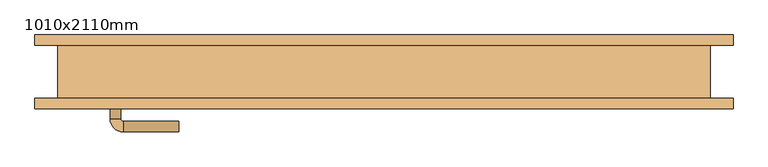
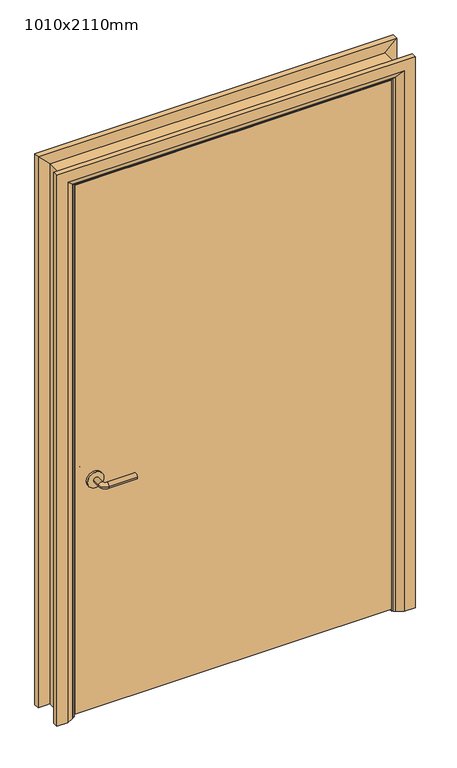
"""IFC4 building model written with IfcOpenShell, lengths in millimetres: door geometry, BIMHealth-Single_Door_1250mm_Wide-LOD2A-v1 : 1010x2110mm."""

from ifc_helpers import new_model, si_unit, point, frame, frame_2d, origin, place, context, project, spatial, polyline, circle_curve, ellipse_curve, trimmed, segment, composite_curve, outline, extrude, faceted_brep, source, transform, mapped, element, save
from ifc_brep_helpers import plane_surface, cylinder_surface, revolved_surface, advanced_brep


def door_1010x2110mm_f2e4c21a(model_context):
    return source(origin(), model_context, "Body", "SolidModel", [
        advanced_brep(
        [(-518.0, -4.0, 900.0), (-498.0, -4.0, 900.0), (-518.0, 26.0, 900.0), (-498.0, 26.0, 900.0), (-493.0, 31.0, 900.0), (-493.0, 51.0, 900.0), (-388.0, 51.0, 900.0), (-388.0, 31.0, 900.0)],
        [
            (0, 1, circle_curve(frame((-508.0, -4.0, 900.0), z_axis=(0.0, -1.0, 0.0), x_axis=(1.0, 0.0, 0.0)), 10.0)),
            (1, 0, circle_curve(frame((-508.0, -4.0, 900.0), z_axis=(0.0, -1.0, 0.0), x_axis=(1.0, 0.0, 0.0)), 10.0)),
            (0, 2),
            (2, 3, circle_curve(frame((-508.0, 26.0, 900.0), z_axis=(0.0, -1.0, 0.0), x_axis=(1.0, 0.0, 0.0)), 10.0)),
            (3, 1),
            (3, 2, circle_curve(frame((-508.0, 26.0, 900.0), z_axis=(0.0, -1.0, 0.0), x_axis=(1.0, 0.0, 0.0)), 10.0)),
            (4, 3, circle_curve(frame((-493.0, 26.0, 900.0), z_axis=(0.0, 0.0, 1.0), x_axis=(-1.0, 0.0, 0.0)), 5.0)),
            (2, 5, circle_curve(frame((-493.0, 26.0, 900.0), z_axis=(0.0, 0.0, -1.0), x_axis=(-1.0, 0.0, 0.0)), 25.0)),
            (5, 4, circle_curve(frame((-493.0, 41.0, 900.0), z_axis=(-1.0, 0.0, 0.0), x_axis=(0.0, -1.0, 0.0)), 10.0)),
            (4, 5, circle_curve(frame((-493.0, 41.0, 900.0), z_axis=(-1.0, 0.0, 0.0), x_axis=(0.0, -1.0, 0.0)), 10.0)),
            (6, 7, circle_curve(frame((-388.0, 41.0, 900.0), z_axis=(1.0, 0.0, 0.0), x_axis=(0.0, -1.0, 0.0)), 10.0)),
            (7, 6, circle_curve(frame((-388.0, 41.0, 900.0), z_axis=(1.0, 0.0, 0.0), x_axis=(0.0, -1.0, 0.0)), 10.0)),
            (5, 6),
            (7, 4),
        ],
        [
            plane_surface(frame((-508.0, -4.0, 900.0), z_axis=(0.0, -1.0, 0.0), x_axis=(0.0, 0.0, 1.0))),
            cylinder_surface(frame((-508.0, -4.0, 900.0), z_axis=(0.0, -1.0, 0.0), x_axis=(1.0, 0.0, 0.0)), 10.0),
            revolved_surface(trimmed(ellipse_curve(frame((-508.0, 26.0, 900.0), z_axis=(0.0, -1.0, 0.0), x_axis=(1.0, 0.0, 0.0)), 10.0, 10.0), [point((-518.0, 26.0, 900.0))], [point((-498.0, 26.0, 900.0))], True, "CARTESIAN"), (-493.0, 26.0, 900.0), (0.0, 0.0, -1.0)),
            revolved_surface(trimmed(ellipse_curve(frame((-508.0, 26.0, 900.0), z_axis=(0.0, -1.0, 0.0), x_axis=(1.0, 0.0, 0.0)), 10.0, 10.0), [point((-498.0, 26.0, 900.0))], [point((-518.0, 26.0, 900.0))], True, "CARTESIAN"), (-493.0, 26.0, 900.0), (0.0, 0.0, -1.0)),
            plane_surface(frame((-388.0, 41.0, 900.0), z_axis=(1.0, 0.0, 0.0), x_axis=(0.0, 0.0, 1.0))),
            cylinder_surface(frame((-493.0, 41.0, 900.0), z_axis=(-1.0, 0.0, 0.0), x_axis=(0.0, -1.0, 0.0)), 10.0),
        ],
        [
            (0, [[1, 2]]),
            (1, [[-1, 3, 4, 5]]),
            (1, [[-2, -5, 6, -3]]),
            (2, [[7, -4, 8, 9]]),
            (3, [[-8, -6, -7, 10]]),
            (4, [[11, 12]]),
            (5, [[-9, 13, -12, 14]]),
            (5, [[-10, -14, -11, -13]]),
        ],
    ),
        extrude(outline(composite_curve([segment(trimmed(circle_curve(frame_2d((900.0, -510.5)), 30.0), [point((900.0, -540.5))], [point((900.0, -480.5))], False, "CARTESIAN"), True, "CONTINUOUS"), segment(trimmed(circle_curve(frame_2d((900.0, -510.5)), 30.0), [point((900.0, -480.5))], [point((900.0, -540.5))], False, "CARTESIAN"), True, "CONTINUOUS")], self_intersect=False)), frame((0.0, -12.0, 0.0), z_axis=(0.0, 1.0, 0.0), x_axis=(0.0, 0.0, 1.0)), (0.0, 0.0, 1.0), 8.0),
        advanced_brep(
        [(-518.0, -58.0, 900.0), (-498.0, -58.0, 900.0), (-498.0, -88.0, 900.0), (-518.0, -88.0, 900.0), (-493.0, -93.0, 900.0), (-493.0, -113.0, 900.0), (-388.0, -113.0, 900.0), (-388.0, -93.0, 900.0)],
        [
            (0, 1, circle_curve(frame((-508.0, -58.0, 900.0), z_axis=(0.0, 1.0, 0.0), x_axis=(1.0, 0.0, 0.0)), 10.0)),
            (1, 0, circle_curve(frame((-508.0, -58.0, 900.0), z_axis=(0.0, 1.0, 0.0), x_axis=(1.0, 0.0, 0.0)), 10.0)),
            (1, 2),
            (2, 3, circle_curve(frame((-508.0, -88.0, 900.0), z_axis=(0.0, 1.0, 0.0), x_axis=(1.0, 0.0, 0.0)), 10.0)),
            (3, 0),
            (3, 2, circle_curve(frame((-508.0, -88.0, 900.0), z_axis=(0.0, 1.0, 0.0), x_axis=(1.0, 0.0, 0.0)), 10.0)),
            (4, 5, circle_curve(frame((-493.0, -103.0, 900.0), z_axis=(-1.0, 0.0, 0.0), x_axis=(0.0, 1.0, 0.0)), 10.0)),
            (5, 3, circle_curve(frame((-493.0, -88.0, 900.0), z_axis=(0.0, 0.0, -1.0), x_axis=(-1.0, 0.0, 0.0)), 25.0)),
            (2, 4, circle_curve(frame((-493.0, -88.0, 900.0), z_axis=(0.0, 0.0, 1.0), x_axis=(-1.0, 0.0, 0.0)), 5.0)),
            (5, 4, circle_curve(frame((-493.0, -103.0, 900.0), z_axis=(-1.0, 0.0, 0.0), x_axis=(0.0, 1.0, 0.0)), 10.0)),
            (6, 7, circle_curve(frame((-388.0, -103.0, 900.0), z_axis=(1.0, 0.0, 0.0), x_axis=(0.0, 1.0, 0.0)), 10.0)),
            (7, 6, circle_curve(frame((-388.0, -103.0, 900.0), z_axis=(1.0, 0.0, 0.0), x_axis=(0.0, 1.0, 0.0)), 10.0)),
            (4, 7),
            (6, 5),
        ],
        [
            plane_surface(frame((-508.0, -58.0, 900.0), z_axis=(0.0, 1.0, 0.0), x_axis=(0.0, 0.0, 1.0))),
            cylinder_surface(frame((-508.0, -58.0, 900.0), z_axis=(0.0, 1.0, 0.0), x_axis=(1.0, 0.0, 0.0)), 10.0),
            revolved_surface(trimmed(ellipse_curve(frame((-508.0, -88.0, 900.0), z_axis=(0.0, -1.0, 0.0), x_axis=(1.0, 0.0, 0.0)), 10.0, 10.0), [point((-518.0, -88.0, 900.0))], [point((-498.0, -88.0, 900.0))], True, "CARTESIAN"), (-493.0, -88.0, 900.0), (0.0, 0.0, -1.0)),
            revolved_surface(trimmed(ellipse_curve(frame((-508.0, -88.0, 900.0), z_axis=(0.0, -1.0, 0.0), x_axis=(1.0, 0.0, 0.0)), 10.0, 10.0), [point((-498.0, -88.0, 900.0))], [point((-518.0, -88.0, 900.0))], True, "CARTESIAN"), (-493.0, -88.0, 900.0), (0.0, 0.0, -1.0)),
            plane_surface(frame((-388.0, -103.0, 900.0), z_axis=(1.0, 0.0, 0.0), x_axis=(0.0, 0.0, 1.0))),
            cylinder_surface(frame((-493.0, -103.0, 900.0), z_axis=(-1.0, 0.0, 0.0), x_axis=(0.0, 1.0, 0.0)), 10.0),
        ],
        [
            (0, [[1, 2]]),
            (1, [[3, 4, 5, -2]]),
            (1, [[-5, 6, -3, -1]]),
            (2, [[7, 8, -4, 9]]),
            (3, [[10, -9, -6, -8]]),
            (4, [[11, 12]]),
            (5, [[13, -11, 14, -7]]),
            (5, [[-14, -12, -13, -10]]),
        ],
    ),
        extrude(outline(composite_curve([segment(trimmed(circle_curve(frame_2d((900.0, -510.5)), 30.0), [point((900.0, -540.5))], [point((900.0, -480.5))], False, "CARTESIAN"), True, "CONTINUOUS"), segment(trimmed(circle_curve(frame_2d((900.0, -510.5)), 30.0), [point((900.0, -480.5))], [point((900.0, -540.5))], False, "CARTESIAN"), True, "CONTINUOUS")], self_intersect=False)), frame((0.0, -58.0, 0.0), z_axis=(0.0, 1.0, 0.0), x_axis=(0.0, 0.0, 1.0)), (0.0, 0.0, 1.0), 8.0),
        extrude(outline(polyline([(583.0, -12.0), (583.0, -50.0), (-583.0, -50.0), (-583.0, -12.0), (583.0, -12.0)])), frame((0.0, 0.0, 8.0), z_axis=(0.0, 0.0, 1.0), x_axis=(1.0, 0.0, 0.0)), (0.0, 0.0, 1.0), 2060.0),
        advanced_brep(
        [(660.0, -70.0, 0.0), (620.0, -70.0, 0.0), (594.0, -56.0, 0.0), (590.0, -50.0, 0.0), (660.0, -50.0, 0.0), (660.0, -50.0, 2145.0), (660.0, -70.0, 2145.0), (590.0, -50.0, 2075.0), (-590.0, -50.0, 2075.0), (-590.0, -50.0, 0.0), (-660.0, -50.0, 0.0), (-660.0, -50.0, 2145.0), (594.0, -56.0, 2079.0), (620.0, -70.0, 2105.0), (-660.0, -70.0, 2145.0), (-660.0, -70.0, 0.0), (-620.0, -70.0, 0.0), (-620.0, -70.0, 2105.0), (-594.0, -56.0, 0.0), (-594.0, -56.0, 2079.0)],
        [
            (0, 1),
            (1, 2),
            (2, 3, circle_curve(frame((598.0, -49.0, 0.0), z_axis=(0.0, 0.0, -1.0), x_axis=(1.0, 0.0, 0.0)), 8.0622577)),
            (3, 4),
            (4, 0),
            (4, 5),
            (5, 6),
            (6, 0),
            (3, 7),
            (7, 8),
            (8, 9),
            (9, 10),
            (10, 11),
            (11, 5),
            (2, 12),
            (12, 7, ellipse_curve(frame((598.0, -49.0, 2083.0), z_axis=(0.7071067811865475, 0.0, -0.7071067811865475), x_axis=(-0.7071067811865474, 0.0, -0.7071067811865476)), 11.4017543, 8.0622577)),
            (1, 13),
            (13, 12),
            (6, 14),
            (14, 15),
            (15, 16),
            (16, 17),
            (17, 13),
            (10, 15),
            (14, 11),
            (9, 18, circle_curve(frame((-598.0, -49.0, 0.0), z_axis=(0.0, 0.0, -1.0), x_axis=(-1.0, 0.0, 0.0)), 8.0622577)),
            (18, 16),
            (19, 18),
            (8, 19, ellipse_curve(frame((-598.0, -49.0, 2083.0), z_axis=(-0.7071067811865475, 0.0, -0.7071067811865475), x_axis=(-0.7071067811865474, 0.0, 0.7071067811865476)), 11.4017543, 8.0622577)),
            (19, 17),
            (12, 19),
        ],
        [
            plane_surface(frame((590.0, -50.0, 0.0), z_axis=(0.0, 0.0, -1.0), x_axis=(0.0, 1.0, 0.0))),
            plane_surface(frame((660.0, -70.0, 0.0), z_axis=(1.0, 0.0, 0.0), x_axis=(0.0, 0.0, 1.0))),
            plane_surface(frame((660.0, -50.0, 0.0), z_axis=(0.0, 1.0, 0.0), x_axis=(0.0, 0.0, 1.0))),
            cylinder_surface(frame((598.0, -49.0, 0.0), z_axis=(0.0, 0.0, -1.0), x_axis=(1.0, 0.0, 0.0)), 8.0622577),
            plane_surface(frame((594.0, -56.0, 0.0), z_axis=(-0.4740998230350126, -0.880471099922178, 0.0), x_axis=(0.0, 0.0, 1.0))),
            plane_surface(frame((620.0, -70.0, 0.0), z_axis=(0.0, -1.0, 0.0), x_axis=(0.0, 0.0, 1.0))),
            plane_surface(frame((-660.0, -70.0, 2145.0), z_axis=(-1.0, 0.0, 0.0), x_axis=(0.0, 0.0, -1.0))),
            plane_surface(frame((-590.0, -50.0, 0.0), z_axis=(0.0, 0.0, -1.0), x_axis=(0.0, 1.0, 0.0))),
            cylinder_surface(frame((-598.0, -49.0, 2075.0), z_axis=(0.0, 0.0, 1.0), x_axis=(-1.0, 0.0, 0.0)), 8.0622577),
            plane_surface(frame((-594.0, -56.0, 2079.0), z_axis=(0.47409982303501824, -0.8804710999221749, 0.0), x_axis=(0.0, 0.0, -1.0))),
            plane_surface(frame((660.0, -70.0, 2145.0), z_axis=(0.0, 0.0, 1.0), x_axis=(-1.0, 0.0, 0.0))),
            cylinder_surface(frame((590.0, -49.0, 2083.0), z_axis=(1.0, 0.0, 0.0), x_axis=(0.0, 0.0, 1.0)), 8.0622577),
            plane_surface(frame((594.0, -56.0, 2079.0), z_axis=(0.0, -0.8804710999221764, -0.4740998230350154), x_axis=(-1.0, 0.0, 0.0))),
        ],
        [
            (0, [[1, 2, 3, 4, 5]]),
            (1, [[6, 7, 8, -5]]),
            (2, [[9, 10, 11, 12, 13, 14, -6, -4]]),
            (3, [[15, 16, -9, -3]]),
            (4, [[17, 18, -15, -2]]),
            (5, [[-8, 19, 20, 21, 22, 23, -17, -1]]),
            (6, [[-13, 24, -20, 25]]),
            (7, [[-24, -12, 26, 27, -21]]),
            (8, [[28, -26, -11, 29]]),
            (9, [[-22, -27, -28, 30]]),
            (10, [[-14, -25, -19, -7]]),
            (11, [[31, -29, -10, -16]]),
            (12, [[-23, -30, -31, -18]]),
        ],
    ),
        extrude(outline(polyline([(0.0, -566.0), (2051.0, -566.0), (2051.0, 566.0), (0.0, 566.0), (0.0, 585.0), (2070.0, 585.0), (2070.0, -585.0), (0.0, -585.0), (0.0, -566.0)])), frame((0.0, -10.0, 0.0), z_axis=(0.0, 1.0, 0.0), x_axis=(0.0, 0.0, 1.0)), (0.0, 0.0, 1.0), 32.0),
        advanced_brep(
        [(-660.0, 70.0, 0.0), (-620.0, 70.0, 0.0), (-594.0, 56.0, 0.0), (-590.0, 50.0, 0.0), (-660.0, 50.0, 0.0), (-660.0, 50.0, 2145.0), (-660.0, 70.0, 2145.0), (-590.0, 50.0, 2075.0), (-594.0, 56.0, 2079.0), (-620.0, 70.0, 2105.0), (660.0, 70.0, 0.0), (660.0, 50.0, 0.0), (590.0, 50.0, 0.0), (594.0, 56.0, 0.0), (620.0, 70.0, 0.0), (660.0, 70.0, 2145.0), (620.0, 70.0, 2105.0), (594.0, 56.0, 2079.0), (590.0, 50.0, 2075.0), (660.0, 50.0, 2145.0)],
        [
            (0, 1),
            (1, 2),
            (2, 3, circle_curve(frame((-598.0, 49.0, 0.0), z_axis=(0.0, 0.0, -1.0), x_axis=(-1.0, 0.0, 0.0)), 8.0622577)),
            (3, 4),
            (4, 0),
            (4, 5),
            (5, 6),
            (6, 0),
            (3, 7),
            (7, 5),
            (2, 8),
            (8, 7, ellipse_curve(frame((-598.0, 49.0, 2083.0), z_axis=(-0.7071067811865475, 0.0, -0.7071067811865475), x_axis=(0.7071067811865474, 0.0, -0.7071067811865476)), 11.4017543, 8.0622577)),
            (1, 9),
            (9, 8),
            (6, 9),
            (10, 11),
            (11, 12),
            (12, 13, circle_curve(frame((598.0, 49.0, 0.0), z_axis=(0.0, 0.0, -1.0), x_axis=(1.0, 0.0, 0.0)), 8.0622577)),
            (13, 14),
            (14, 10),
            (15, 10),
            (14, 16),
            (16, 15),
            (13, 17),
            (17, 16),
            (12, 18),
            (18, 17, ellipse_curve(frame((598.0, 49.0, 2083.0), z_axis=(0.7071067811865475, 0.0, -0.7071067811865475), x_axis=(0.7071067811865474, 0.0, 0.7071067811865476)), 11.4017543, 8.0622577)),
            (11, 19),
            (19, 18),
            (15, 19),
            (5, 19),
            (15, 6),
            (7, 18),
            (8, 17),
            (9, 16),
        ],
        [
            plane_surface(frame((-590.0, 122.8010989, 0.0), z_axis=(0.0, 0.0, -1.0), x_axis=(1.0, 0.0, 0.0))),
            plane_surface(frame((-660.0, 70.0, 0.0), z_axis=(-1.0, 0.0, 0.0), x_axis=(0.0, 0.0, 1.0))),
            plane_surface(frame((-660.0, 50.0, 0.0), z_axis=(0.0, -1.0, 0.0), x_axis=(0.0, 0.0, 1.0))),
            cylinder_surface(frame((-598.0, 49.0, 0.0), z_axis=(0.0, 0.0, -1.0), x_axis=(-1.0, 0.0, 0.0)), 8.0622577),
            plane_surface(frame((-594.0, 56.0, 0.0), z_axis=(0.4740998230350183, 0.8804710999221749, 0.0), x_axis=(0.0, 0.0, 1.0))),
            plane_surface(frame((-620.0, 70.0, 0.0), z_axis=(0.0, 1.0, 0.0), x_axis=(0.0, 0.0, 1.0))),
            plane_surface(frame((590.0, 122.8010989, 0.0), z_axis=(0.0, 0.0, -1.0), x_axis=(-1.0, 0.0, 0.0))),
            plane_surface(frame((620.0, 70.0, 2105.0), z_axis=(0.0, 1.0, 0.0), x_axis=(0.0, 0.0, -1.0))),
            plane_surface(frame((594.0, 56.0, 2079.0), z_axis=(-0.4740998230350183, 0.8804710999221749, 0.0), x_axis=(0.0, 0.0, -1.0))),
            cylinder_surface(frame((598.0, 49.0, 2075.0), z_axis=(0.0, 0.0, 1.0), x_axis=(1.0, 0.0, 0.0)), 8.0622577),
            plane_surface(frame((660.0, 50.0, 2145.0), z_axis=(0.0, -1.0, 0.0), x_axis=(0.0, 0.0, -1.0))),
            plane_surface(frame((660.0, 70.0, 2145.0), z_axis=(1.0, 0.0, 0.0), x_axis=(0.0, 0.0, -1.0))),
            plane_surface(frame((-660.0, 70.0, 2145.0), z_axis=(0.0, 0.0, 1.0), x_axis=(1.0, 0.0, 0.0))),
            plane_surface(frame((-660.0, 50.0, 2145.0), z_axis=(0.0, -1.0, 0.0), x_axis=(1.0, 0.0, 0.0))),
            cylinder_surface(frame((-590.0, 49.0, 2083.0), z_axis=(-1.0, 0.0, 0.0), x_axis=(0.0, 0.0, 1.0)), 8.0622577),
            plane_surface(frame((-594.0, 56.0, 2079.0), z_axis=(0.0, 0.8804710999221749, -0.4740998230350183), x_axis=(1.0, 0.0, 0.0))),
            plane_surface(frame((-620.0, 70.0, 2105.0), z_axis=(0.0, 1.0, 0.0), x_axis=(1.0, 0.0, 0.0))),
        ],
        [
            (0, [[1, 2, 3, 4, 5]]),
            (1, [[6, 7, 8, -5]]),
            (2, [[9, 10, -6, -4]]),
            (3, [[11, 12, -9, -3]]),
            (4, [[13, 14, -11, -2]]),
            (5, [[-8, 15, -13, -1]]),
            (6, [[16, 17, 18, 19, 20]]),
            (7, [[21, -20, 22, 23]]),
            (8, [[-22, -19, 24, 25]]),
            (9, [[-24, -18, 26, 27]]),
            (10, [[-26, -17, 28, 29]]),
            (11, [[-28, -16, -21, 30]]),
            (12, [[31, -30, 32, -7]]),
            (13, [[33, -29, -31, -10]]),
            (14, [[34, -27, -33, -12]]),
            (15, [[35, -25, -34, -14]]),
            (16, [[-32, -23, -35, -15]]),
        ],
    ),
        faceted_brep([(-585.0, -50.0, 0.0), (-617.0, -50.0, 0.0), (-617.0, 50.0, 0.0), (-585.0, 50.0, 0.0), (-585.0, 50.0, 2070.0), (-585.0, -50.0, 2070.0), (-617.0, 50.0, 2102.0), (-617.0, -50.0, 2102.0), (585.0, -50.0, 0.0), (585.0, 50.0, 0.0), (617.0, 50.0, 0.0), (617.0, -50.0, 0.0), (585.0, -50.0, 2070.0), (617.0, -50.0, 2102.0), (617.0, 50.0, 2102.0), (585.0, 50.0, 2070.0)], [[[0, 1, 2, 3]], [[3, 4, 5, 0]], [[2, 6, 4, 3]], [[1, 7, 6, 2]], [[0, 5, 7, 1]], [[8, 9, 10, 11]], [[12, 8, 11, 13]], [[13, 11, 10, 14]], [[14, 10, 9, 15]], [[15, 9, 8, 12]], [[4, 15, 12, 5]], [[6, 14, 15, 4]], [[7, 13, 14, 6]], [[5, 12, 13, 7]]]),
    ])


if __name__ == "__main__":
    model = new_model("IFC4")
    model_context = context("Model", 3, world=origin())
    ifc_project = project(units=[si_unit("LENGTHUNIT", "METRE", prefix="MILLI")], contexts=[model_context])
    site = spatial("IfcSite", under=ifc_project)
    building = spatial("IfcBuilding", under=site)
    placement = place(None, origin())
    door_1010x2110mm_shape = door_1010x2110mm_f2e4c21a(model_context)
    element("IfcDoor", 1, ObjectType="BIMHealth-Single_Door_1250mm_Wide-LOD2A-v1 : 1010x2110mm", at=placement, inside=building, context=model_context, shape_type="MappedRepresentation", body=[
        mapped(door_1010x2110mm_shape, transform((0.0, 0.0, 0.0), x_axis=(1.0, 0.0, 0.0), y_axis=(0.0, 1.0, 0.0), z_axis=(0.0, 0.0, 1.0))),
    ])
    save(model, "model.ifc")
